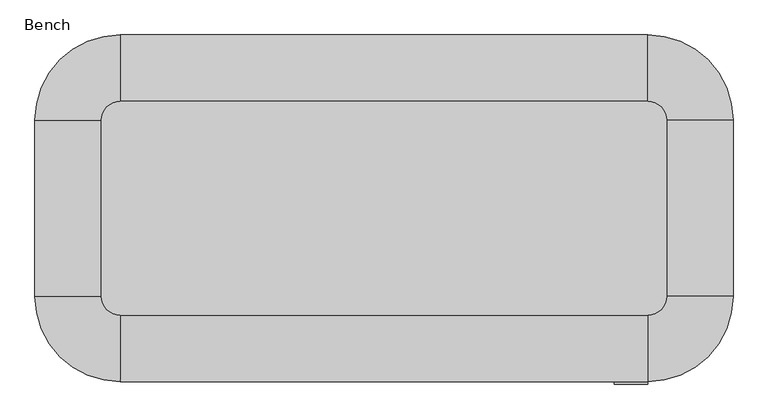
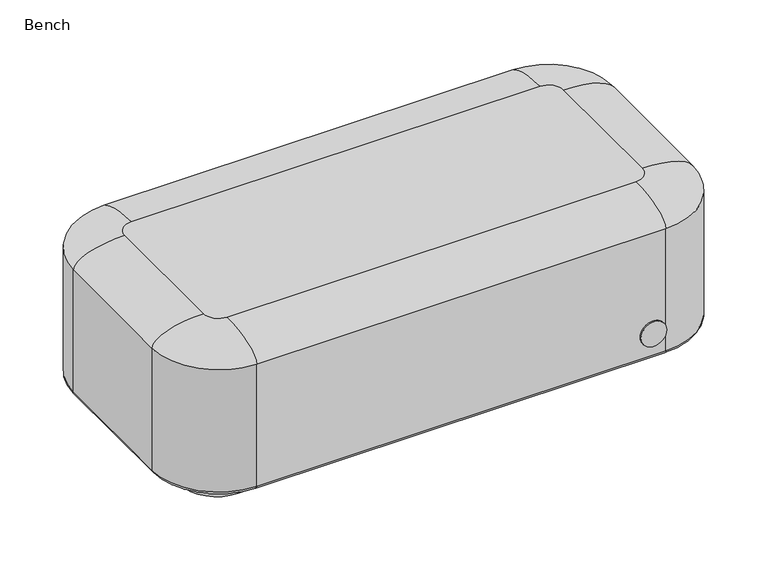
"""IFC4 building model written with IfcOpenShell, lengths in millimetres: furniture geometry, PODLounge  : Bench."""

from ifc_helpers import new_model, si_unit, point, frame, frame_2d, origin, origin_with_axes, place, context, project, spatial, polyline, circle_curve, ellipse_curve, trimmed, segment, composite_curve, outline, extrude, source, transform, mapped, element, save
from ifc_brep_helpers import plane_surface, cylinder_surface, revolved_surface, extruded_surface, advanced_brep


def bench_6de6b90e(model_context):
    return source(origin(), model_context, "Body", "SolidModel", [
        advanced_brep(
        [(-555.0, 225.0, 460.0), (-595.0, 185.0, 460.0), (-595.0, -185.0, 460.0), (-555.0, -225.0, 460.0), (555.0, -225.0, 460.0), (595.0, -185.0, 460.0), (595.0, 185.0, 460.0), (555.0, 225.0, 460.0), (-725.0, 185.0, 50.0), (-555.0, 355.0, 50.0), (555.0, 355.0, 50.0), (725.0, 185.0, 50.0), (725.0, -185.0, 50.0), (555.0, -355.0, 50.0), (-555.0, -355.0, 50.0), (-725.0, -185.0, 50.0), (555.0, -365.0, 410.0), (555.0, -365.0, 60.0), (735.0, -185.0, 60.0), (735.0, -185.0, 410.0), (735.0, 185.0, 60.0), (735.0, 185.0, 410.0), (555.0, 365.0, 60.0), (555.0, 365.0, 410.0), (-555.0, 365.0, 60.0), (-555.0, 365.0, 410.0), (-735.0, 185.0, 410.0), (-735.0, 185.0, 60.0), (-735.0, -185.0, 60.0), (-735.0, -185.0, 410.0), (-555.0, -365.0, 410.0), (-555.0, -365.0, 60.0)],
        [
            (0, 1, circle_curve(frame((-555.0, 185.0, 460.0), z_axis=(0.0, 0.0, 1.0), x_axis=(0.0, 1.0, 0.0)), 40.0)),
            (1, 2),
            (2, 3, circle_curve(frame((-555.0, -185.0, 460.0), z_axis=(0.0, 0.0, 1.0), x_axis=(-1.0, 0.0, 0.0)), 40.0)),
            (3, 4),
            (4, 5, circle_curve(frame((555.0, -185.0, 460.0), z_axis=(0.0, 0.0, 1.0), x_axis=(0.0, -1.0, 0.0)), 40.0)),
            (5, 6),
            (6, 7, circle_curve(frame((555.0, 185.0, 460.0), z_axis=(0.0, 0.0, 1.0), x_axis=(1.0, 0.0, 0.0)), 40.0)),
            (7, 0),
            (8, 9, circle_curve(frame((-555.0, 185.0, 50.0), z_axis=(0.0, 0.0, -1.0), x_axis=(0.0, 1.0, 0.0)), 170.0)),
            (9, 10),
            (10, 11, circle_curve(frame((555.0, 185.0, 50.0), z_axis=(0.0, 0.0, -1.0), x_axis=(1.0, 0.0, 0.0)), 170.0)),
            (11, 12),
            (12, 13, circle_curve(frame((555.0, -185.0, 50.0), z_axis=(0.0, 0.0, -1.0), x_axis=(0.0, -1.0, 0.0)), 170.0)),
            (13, 14),
            (14, 15, circle_curve(frame((-555.0, -185.0, 50.0), z_axis=(0.0, 0.0, -1.0), x_axis=(-1.0, 0.0, 0.0)), 170.0)),
            (15, 8),
            (16, 17),
            (17, 18, circle_curve(frame((555.0, -185.0, 60.0), z_axis=(0.0, 0.0, 1.0), x_axis=(1.0, 0.0, 0.0)), 180.0)),
            (18, 19),
            (19, 16, circle_curve(frame((555.0, -185.0, 410.0), z_axis=(0.0, 0.0, -1.0), x_axis=(1.0, 0.0, 0.0)), 180.0)),
            (18, 20),
            (20, 21),
            (21, 19),
            (20, 22, circle_curve(frame((555.0, 185.0, 60.0), z_axis=(0.0, 0.0, 1.0), x_axis=(1.0, 0.0, 0.0)), 180.0)),
            (22, 23),
            (23, 21, circle_curve(frame((555.0, 185.0, 410.0), z_axis=(0.0, 0.0, -1.0), x_axis=(1.0, 0.0, 0.0)), 180.0)),
            (22, 24),
            (24, 25),
            (25, 23),
            (26, 27),
            (27, 28),
            (28, 29),
            (29, 26),
            (16, 30),
            (30, 31),
            (31, 17),
            (26, 25, circle_curve(frame((-555.0, 185.0, 410.0), z_axis=(0.0, 0.0, -1.0), x_axis=(1.0, 0.0, 0.0)), 180.0)),
            (24, 27, circle_curve(frame((-555.0, 185.0, 60.0), z_axis=(0.0, 0.0, 1.0), x_axis=(1.0, 0.0, 0.0)), 180.0)),
            (30, 29, circle_curve(frame((-555.0, -185.0, 410.0), z_axis=(0.0, 0.0, -1.0), x_axis=(1.0, 0.0, 0.0)), 180.0)),
            (28, 31, circle_curve(frame((-555.0, -185.0, 60.0), z_axis=(0.0, 0.0, 1.0), x_axis=(1.0, 0.0, 0.0)), 180.0)),
            (26, 1, ellipse_curve(frame((-595.0, 185.0, 410.0), z_axis=(0.0, 1.0, 0.0), x_axis=(-1.0, 0.0, 0.0)), 140.0, 50.0)),
            (0, 25, ellipse_curve(frame((-555.0, 225.0, 410.0), z_axis=(-1.0, 0.0, 0.0), x_axis=(0.0, 1.0, 0.0)), 140.0, 50.0)),
            (29, 2, ellipse_curve(frame((-595.0, -185.0, 410.0), z_axis=(0.0, 1.0, 0.0), x_axis=(-1.0, 0.0, 0.0)), 140.0, 50.0)),
            (30, 3, ellipse_curve(frame((-555.0, -225.0, 410.0), z_axis=(-1.0, 0.0, 0.0), x_axis=(0.0, -1.0, 0.0)), 140.0, 50.0)),
            (16, 4, ellipse_curve(frame((555.0, -225.0, 410.0), z_axis=(-1.0, 0.0, 0.0), x_axis=(0.0, -1.0, 0.0)), 140.0, 50.0)),
            (19, 5, ellipse_curve(frame((595.0, -185.0, 410.0), z_axis=(0.0, -1.0, 0.0), x_axis=(1.0, 0.0, 0.0)), 140.0, 50.0)),
            (21, 6, ellipse_curve(frame((595.0, 185.0, 410.0), z_axis=(0.0, -1.0, 0.0), x_axis=(1.0, 0.0, 0.0)), 140.0, 50.0)),
            (23, 7, ellipse_curve(frame((555.0, 225.0, 410.0), z_axis=(1.0, 0.0, 0.0), x_axis=(0.0, 1.0, 0.0)), 140.0, 50.0)),
            (8, 27, circle_curve(frame((-725.0, 185.0, 60.0), z_axis=(0.0, 1.0, 0.0), x_axis=(1.0, 0.0, 0.0)), 10.0)),
            (24, 9, circle_curve(frame((-555.0, 355.0, 60.0), z_axis=(-1.0, 0.0, 0.0), x_axis=(0.0, -1.0, 0.0)), 10.0)),
            (15, 28, circle_curve(frame((-725.0, -185.0, 60.0), z_axis=(0.0, 1.0, 0.0), x_axis=(1.0, 0.0, 0.0)), 10.0)),
            (14, 31, circle_curve(frame((-555.0, -355.0, 60.0), z_axis=(-1.0, 0.0, 0.0), x_axis=(0.0, 1.0, 0.0)), 10.0)),
            (13, 17, circle_curve(frame((555.0, -355.0, 60.0), z_axis=(-1.0, 0.0, 0.0), x_axis=(0.0, 1.0, 0.0)), 10.0)),
            (12, 18, circle_curve(frame((725.0, -185.0, 60.0), z_axis=(0.0, -1.0, 0.0), x_axis=(-1.0, 0.0, 0.0)), 10.0)),
            (11, 20, circle_curve(frame((725.0, 185.0, 60.0), z_axis=(0.0, -1.0, 0.0), x_axis=(-1.0, 0.0, 0.0)), 10.0)),
            (10, 22, circle_curve(frame((555.0, 355.0, 60.0), z_axis=(1.0, 0.0, 0.0), x_axis=(0.0, -1.0, 0.0)), 10.0)),
        ],
        [
            plane_surface(frame((735.0, -185.0, 460.0), z_axis=(0.0, 0.0, 1.0), x_axis=(0.0, 1.0, 0.0))),
            plane_surface(frame((735.0, -185.0, 50.0), z_axis=(0.0, 0.0, -1.0), x_axis=(0.0, -1.0, 0.0))),
            cylinder_surface(frame((555.0, -185.0, 50.0), z_axis=(0.0, 0.0, 1.0), x_axis=(1.0, 0.0, 0.0)), 180.0),
            plane_surface(frame((735.0, -185.0, 460.0), z_axis=(1.0, 0.0, 0.0), x_axis=(0.0, 0.0, -1.0))),
            cylinder_surface(frame((555.0, 185.0, 50.0), z_axis=(0.0, 0.0, 1.0), x_axis=(1.0, 0.0, 0.0)), 180.0),
            plane_surface(frame((555.0, 365.0, 460.0), z_axis=(0.0, 1.0, 0.0), x_axis=(0.0, 0.0, -1.0))),
            plane_surface(frame((-735.0, 185.0, 460.0), z_axis=(-1.0, 0.0, 0.0), x_axis=(0.0, 0.0, -1.0))),
            plane_surface(frame((-555.0, -365.0, 460.0), z_axis=(0.0, -1.0, 0.0), x_axis=(0.0, 0.0, -1.0))),
            cylinder_surface(frame((-555.0, 185.0, 50.0), z_axis=(0.0, 0.0, 1.0), x_axis=(1.0, 0.0, 0.0)), 180.0),
            cylinder_surface(frame((-555.0, -185.0, 50.0), z_axis=(0.0, 0.0, 1.0), x_axis=(1.0, 0.0, 0.0)), 180.0),
            revolved_surface(trimmed(ellipse_curve(frame((-555.0, 225.0, 410.0), z_axis=(1.0, 0.0, 0.0), x_axis=(0.0, 1.0, 0.0)), 140.0, 50.0), [point((-555.0, 365.0, 410.0))], [point((-555.0, 225.0, 460.0))], True, "CARTESIAN"), (-555.0, 185.0, 0.0), (0.0, 0.0, 1.0)),
            extruded_surface(trimmed(ellipse_curve(frame((-595.0, 185.0, 410.0), z_axis=(0.0, -1.0, 0.0), x_axis=(-1.0, 0.0, 0.0)), 140.0, 50.0), [point((-595.0, 185.0, 460.0))], [point((-735.0, 185.0, 410.0))], True, "CARTESIAN"), (0.0, -370.0, 0.0), 370.0),
            revolved_surface(trimmed(ellipse_curve(frame((-595.0, -185.0, 410.0), z_axis=(0.0, 1.0, 0.0), x_axis=(-1.0, 0.0, 0.0)), 140.0, 50.0), [point((-735.0, -185.0, 410.0))], [point((-595.0, -185.0, 460.0))], True, "CARTESIAN"), (-555.0, -185.0, 0.0), (0.0, 0.0, 1.0)),
            extruded_surface(trimmed(ellipse_curve(frame((-555.0, -225.0, 410.0), z_axis=(1.0, 0.0, 0.0), x_axis=(0.0, -1.0, 0.0)), 140.0, 50.0), [point((-555.0, -225.0, 460.0))], [point((-555.0, -365.0, 410.0))], True, "CARTESIAN"), (1110.0, 0.0, 0.0), 1110.0),
            revolved_surface(trimmed(ellipse_curve(frame((555.0, -225.0, 410.0), z_axis=(-1.0, 0.0, 0.0), x_axis=(0.0, -1.0, 0.0)), 140.0, 50.0), [point((555.0, -365.0, 410.0))], [point((555.0, -225.0, 460.0))], True, "CARTESIAN"), (555.0, -185.0, 0.0), (0.0, 0.0, 1.0)),
            extruded_surface(trimmed(ellipse_curve(frame((595.0, -185.0, 410.0), z_axis=(0.0, 1.0, 0.0), x_axis=(1.0, 0.0, 0.0)), 140.0, 50.0), [point((595.0, -185.0, 460.0))], [point((735.0, -185.0, 410.0))], True, "CARTESIAN"), (0.0, 370.0, 0.0), 370.0),
            revolved_surface(trimmed(ellipse_curve(frame((595.0, 185.0, 410.0), z_axis=(0.0, -1.0, 0.0), x_axis=(1.0, 0.0, 0.0)), 140.0, 50.0), [point((735.0, 185.0, 410.0))], [point((595.0, 185.0, 460.0))], True, "CARTESIAN"), (555.0, 185.0, 0.0), (0.0, 0.0, 1.0)),
            extruded_surface(trimmed(ellipse_curve(frame((555.0, 225.0, 410.0), z_axis=(-1.0, 0.0, 0.0), x_axis=(0.0, 1.0, 0.0)), 140.0, 50.0), [point((555.0, 225.0, 460.0))], [point((555.0, 365.0, 410.0))], True, "CARTESIAN"), (-1110.0, 0.0, 0.0), 1110.0),
            revolved_surface(trimmed(ellipse_curve(frame((-555.0, 355.0, 60.0), z_axis=(1.0, 0.0, 0.0), x_axis=(0.0, -1.0, 0.0)), 10.0, 10.0), [point((-555.0, 355.0, 50.0))], [point((-555.0, 365.0, 60.0))], True, "CARTESIAN"), (-555.0, 185.0, 0.0), (0.0, 0.0, 1.0)),
            cylinder_surface(frame((-725.0, 185.0, 60.0), z_axis=(0.0, -1.0, 0.0), x_axis=(1.0, 0.0, 0.0)), 10.0),
            revolved_surface(trimmed(ellipse_curve(frame((-725.0, -185.0, 60.0), z_axis=(0.0, 1.0, 0.0), x_axis=(1.0, 0.0, 0.0)), 10.0, 10.0), [point((-725.0, -185.0, 50.0))], [point((-735.0, -185.0, 60.0))], True, "CARTESIAN"), (-555.0, -185.0, 0.0), (0.0, 0.0, 1.0)),
            cylinder_surface(frame((-555.0, -355.0, 60.0), z_axis=(1.0, 0.0, 0.0), x_axis=(0.0, 1.0, 0.0)), 10.0),
            revolved_surface(trimmed(ellipse_curve(frame((555.0, -355.0, 60.0), z_axis=(-1.0, 0.0, 0.0), x_axis=(0.0, 1.0, 0.0)), 10.0, 10.0), [point((555.0, -355.0, 50.0))], [point((555.0, -365.0, 60.0))], True, "CARTESIAN"), (555.0, -185.0, 0.0), (0.0, 0.0, 1.0)),
            cylinder_surface(frame((725.0, -185.0, 60.0), z_axis=(0.0, 1.0, 0.0), x_axis=(-1.0, 0.0, 0.0)), 10.0),
            revolved_surface(trimmed(ellipse_curve(frame((725.0, 185.0, 60.0), z_axis=(0.0, -1.0, 0.0), x_axis=(-1.0, 0.0, 0.0)), 10.0, 10.0), [point((725.0, 185.0, 50.0))], [point((735.0, 185.0, 60.0))], True, "CARTESIAN"), (555.0, 185.0, 0.0), (0.0, 0.0, 1.0)),
            cylinder_surface(frame((555.0, 355.0, 60.0), z_axis=(-1.0, 0.0, 0.0), x_axis=(0.0, -1.0, 0.0)), 10.0),
        ],
        [
            (0, [[1, 2, 3, 4, 5, 6, 7, 8]]),
            (1, [[9, 10, 11, 12, 13, 14, 15, 16]]),
            (2, [[17, 18, 19, 20]]),
            (3, [[-19, 21, 22, 23]]),
            (4, [[-22, 24, 25, 26]]),
            (5, [[-25, 27, 28, 29]]),
            (6, [[30, 31, 32, 33]]),
            (7, [[-17, 34, 35, 36]]),
            (8, [[-30, 37, -28, 38]]),
            (9, [[-35, 39, -32, 40]]),
            (10, [[41, -1, 42, -37]]),
            (11, [[-41, -33, 43, -2]]),
            (12, [[-43, -39, 44, -3]]),
            (13, [[-44, -34, 45, -4]]),
            (14, [[-45, -20, 46, -5]]),
            (15, [[-46, -23, 47, -6]]),
            (16, [[-47, -26, 48, -7]]),
            (17, [[-42, -8, -48, -29]]),
            (18, [[49, -38, 50, -9]]),
            (19, [[-49, -16, 51, -31]]),
            (20, [[-51, -15, 52, -40]]),
            (21, [[-52, -14, 53, -36]]),
            (22, [[-53, -13, 54, -18]]),
            (23, [[-54, -12, 55, -21]]),
            (24, [[-55, -11, 56, -24]]),
            (25, [[-50, -27, -56, -10]]),
        ],
    ),
        extrude(outline(composite_curve([segment(polyline([(565.0, -295.0), (-565.0, -295.0)]), True, "CONTINUOUS"), segment(trimmed(circle_curve(frame_2d((-565.0, -195.0)), 100.0), [point((-565.0, -295.0))], [point((-665.0, -195.0))], False, "CARTESIAN"), True, "CONTINUOUS"), segment(polyline([(-665.0, -195.0), (-665.0, 195.0)]), True, "CONTINUOUS"), segment(trimmed(circle_curve(frame_2d((-565.0, 195.0)), 100.0), [point((-665.0, 195.0))], [point((-565.0, 295.0))], False, "CARTESIAN"), True, "CONTINUOUS"), segment(polyline([(-565.0, 295.0), (565.0, 295.0)]), True, "CONTINUOUS"), segment(trimmed(circle_curve(frame_2d((565.0, 195.0)), 100.0), [point((565.0, 295.0))], [point((665.0, 195.0))], False, "CARTESIAN"), True, "CONTINUOUS"), segment(polyline([(665.0, 195.0), (665.0, -195.0)]), True, "CONTINUOUS"), segment(trimmed(circle_curve(frame_2d((565.0, -195.0)), 100.0), [point((665.0, -195.0))], [point((565.0, -295.0))], False, "CARTESIAN"), True, "CONTINUOUS")], self_intersect=False)), origin_with_axes(), (0.0, 0.0, 1.0), 50.0),
        extrude(outline(composite_curve([segment(trimmed(circle_curve(frame_2d((122.8625944, 520.0)), 35.0), [point((122.8625944, 555.0))], [point((122.8625944, 485.0))], False, "CARTESIAN"), True, "CONTINUOUS"), segment(trimmed(circle_curve(frame_2d((122.8625944, 520.0)), 35.0), [point((122.8625944, 485.0))], [point((122.8625944, 555.0))], False, "CARTESIAN"), True, "CONTINUOUS")], self_intersect=False)), frame((0.0, -370.0, 0.0), z_axis=(0.0, 1.0, 0.0), x_axis=(0.0, 0.0, 1.0)), (0.0, 0.0, 1.0), 5.0),
    ])


if __name__ == "__main__":
    model = new_model("IFC4")
    model_context = context("Model", 3, world=origin())
    ifc_project = project(units=[si_unit("LENGTHUNIT", "METRE", prefix="MILLI")], contexts=[model_context])
    site = spatial("IfcSite", under=ifc_project)
    building = spatial("IfcBuilding", under=site)
    placement = place(None, origin())
    bench_shape = bench_6de6b90e(model_context)
    element("IfcFurniture", 1, ObjectType="PODLounge  : Bench", at=placement, inside=building, context=model_context, shape_type="MappedRepresentation", body=[
        mapped(bench_shape, transform((0.0, 0.0, 0.0), x_axis=(1.0, 0.0, 0.0), y_axis=(0.0, 1.0, 0.0), z_axis=(0.0, 0.0, 1.0))),
    ])
    save(model, "model.ifc")
